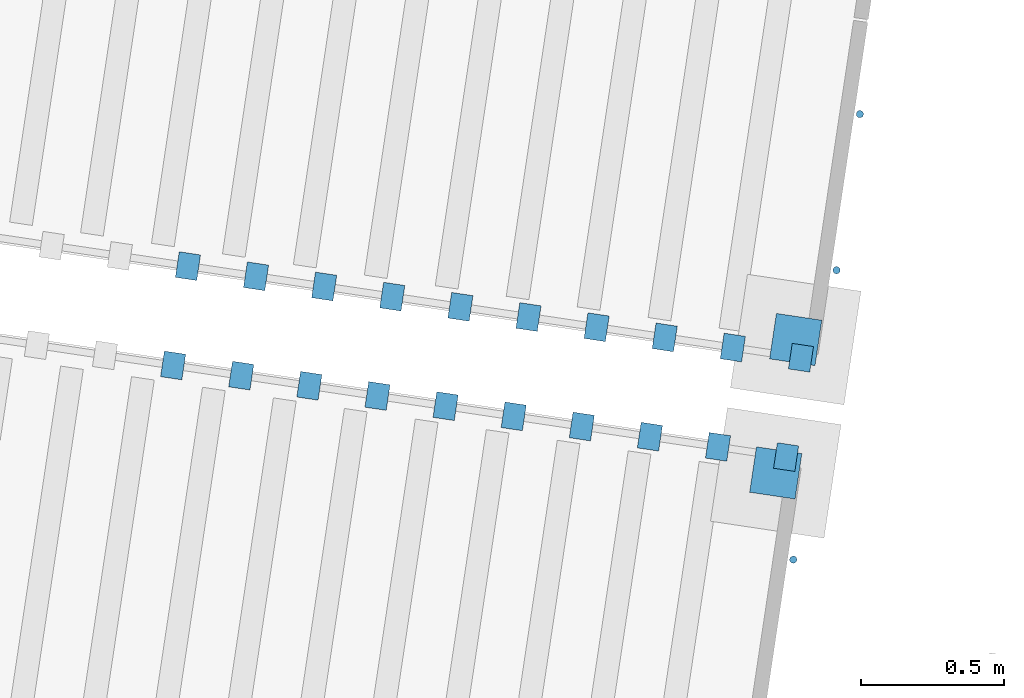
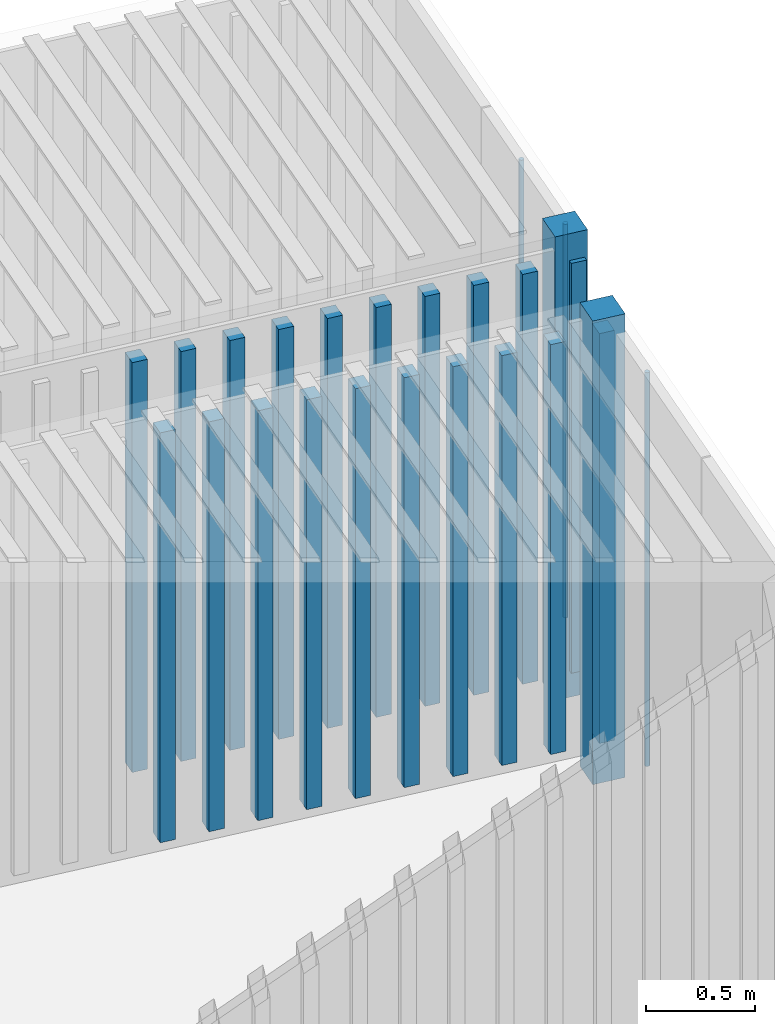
# One storey, part 30 of 142: 25 members, 2 elements without a shape of their own.
"""IFC4 building model written with IfcOpenShell, lengths in metres."""

from ifc_helpers import new_model, si_unit, direction, frame, origin_with_axes, place, context, subcontext, project, spatial, polyline, circle, outline, extrude, material, material_profile, profile_set, profile_usage, type_object, element, aggregate, save


model = new_model("IFC4")

# Units and contexts
model_context = context("Model", 3, precision=1e-05, world=origin_with_axes(), true_north=direction((0.0, 1.0)))
body_context = subcontext(model_context, "Body", "Model", "MODEL_VIEW")
ifc_project = project(units=[si_unit("VOLUMEUNIT", "CUBIC_METRE"), si_unit("LENGTHUNIT", "METRE"), si_unit("AREAUNIT", "SQUARE_METRE")], contexts=[model_context])

# Site, building, storey
site_placement = place(None, origin_with_axes())
site = spatial("IfcSite", under=ifc_project, at=site_placement, Name="Lares · Rua das Mercês · artigo 4771")
building_placement = place(site_placement, frame((12.0, 10.2, 13.9), z_axis=(0.0, 0.0, 1.0), x_axis=(0.989015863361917, -0.147809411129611, 0.0)))
building = spatial("IfcBuilding", under=site, at=building_placement, Name="Casa Sobreposta")
storey_placement = place(building_placement, origin_with_axes())
storey = spatial("IfcBuildingStorey", under=building, at=storey_placement, Name="00 · Habitação e estacionamento", Elevation=13.9)

# Assembly, member
assembly_1_placement = place(storey_placement, origin_with_axes())
assembly_1 = element("IfcElementAssembly", 1, at=assembly_1_placement, inside=storey, ObjectType="EXISTING_SHIPPING_CONTAINER", PredefinedType="USERDEFINED")
ifc_material_1 = material(Name="Aço galvanizado / Stahl verzinkt", Category="steel")
ifc_material_profile = material_profile(ifc_material_1, circle(Radius=0.0125))
ifc_profile_set = profile_set([ifc_material_profile], Name="D0.025")
ifc_profile_usage_1 = profile_usage(ifc_profile_set)
member_type = type_object("IfcMemberType", Name="D0.025 / galvanized", PredefinedType="NOTDEFINED", material=ifc_profile_set)
member_1_placement = place(assembly_1_placement, frame((-6.975, 7.07, -0.394226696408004), z_axis=(0.0, 0.0, 1.0), x_axis=(1.0, 0.0, 0.0)))
member_1 = element("IfcMember", 2, at=member_1_placement, type_object=member_type, material=ifc_profile_usage_1, Name="Contentor · varão de fecho", context=body_context, shape_type="SweptSolid", body=[
    extrude(circle(Radius=0.0125), origin_with_axes(), (0.0, 0.0, 1.0), 2.2),
])

# Assembly, members
assembly_2_placement = place(storey_placement, origin_with_axes())
assembly_2 = element("IfcElementAssembly", 3, at=assembly_2_placement, inside=storey, ObjectType="EXISTING_SHIPPING_CONTAINER", PredefinedType="USERDEFINED")
ifc_profile_usage_2 = profile_usage(ifc_profile_set)
member_2_placement = place(assembly_2_placement, frame((-6.975, 8.09, -0.229831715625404), z_axis=(0.0, 0.0, 1.0), x_axis=(1.0, 0.0, 0.0)))
member_2 = element("IfcMember", 4, at=member_2_placement, type_object=member_type, material=ifc_profile_usage_2, Name="Contentor · varão de fecho", context=body_context, shape_type="SweptSolid", body=[
    extrude(circle(Radius=0.0125), origin_with_axes(), (0.0, 0.0, 1.0), 2.2),
])
ifc_profile_usage_3 = profile_usage(ifc_profile_set)
member_3_placement = place(assembly_2_placement, frame((-6.975, 8.64, -0.229831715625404), z_axis=(0.0, 0.0, 1.0), x_axis=(1.0, 0.0, 0.0)))
member_3 = element("IfcMember", 5, at=member_3_placement, type_object=member_type, material=ifc_profile_usage_3, Name="Contentor · varão de fecho", context=body_context, shape_type="SweptSolid", body=[
    extrude(circle(Radius=0.0125), origin_with_axes(), (0.0, 0.0, 1.0), 2.2),
])

# Member
ifc_material_2 = material(Name="Contentor · pintura 1", Category="steel")
member_4_placement = place(assembly_1_placement, frame((0.0, 0.0, -0.594226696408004), z_axis=(0.0, 0.0, 1.0), x_axis=(1.0, 0.0, 0.0)))
member_4 = element("IfcMember", 6, at=member_4_placement, material=ifc_material_2, Name="Contentor · canto", context=body_context, shape_type="SweptSolid", body=[
    extrude(outline(polyline([(-7.0, 7.28), (-7.0, 7.44), (-7.16, 7.44), (-7.16, 7.28), (-7.0, 7.28)])), origin_with_axes(), (0.0, 0.0, 1.0), 2.59),
])

member_5_placement = place(assembly_1_placement, frame((0.0, 0.0, -0.444226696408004), z_axis=(0.0, 0.0, 1.0), x_axis=(1.0, 0.0, 0.0)))
member_5 = element("IfcMember", 7, at=member_5_placement, material=ifc_material_2, Name="Contentor · nervura lateral", context=body_context, shape_type="SweptSolid", body=[
    extrude(outline(polyline([(-9.175, 7.375), (-9.175, 7.465), (-9.25, 7.465), (-9.25, 7.375), (-9.175, 7.375)])), origin_with_axes(), (0.0, 0.0, 1.0), 2.29),
])

member_6_placement = place(assembly_1_placement, frame((0.0, 0.0, -0.444226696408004), z_axis=(0.0, 0.0, 1.0), x_axis=(1.0, 0.0, 0.0)))
member_6 = element("IfcMember", 8, at=member_6_placement, material=ifc_material_2, Name="Contentor · nervura lateral", context=body_context, shape_type="SweptSolid", body=[
    extrude(outline(polyline([(-8.935, 7.375), (-8.935, 7.465), (-9.01, 7.465), (-9.01, 7.375), (-8.935, 7.375)])), origin_with_axes(), (0.0, 0.0, 1.0), 2.29),
])

member_7_placement = place(assembly_1_placement, frame((0.0, 0.0, -0.444226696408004), z_axis=(0.0, 0.0, 1.0), x_axis=(1.0, 0.0, 0.0)))
member_7 = element("IfcMember", 9, at=member_7_placement, material=ifc_material_2, Name="Contentor · nervura lateral", context=body_context, shape_type="SweptSolid", body=[
    extrude(outline(polyline([(-8.695, 7.375), (-8.695, 7.465), (-8.77, 7.465), (-8.77, 7.375), (-8.695, 7.375)])), origin_with_axes(), (0.0, 0.0, 1.0), 2.29),
])

member_8_placement = place(assembly_1_placement, frame((0.0, 0.0, -0.444226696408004), z_axis=(0.0, 0.0, 1.0), x_axis=(1.0, 0.0, 0.0)))
member_8 = element("IfcMember", 10, at=member_8_placement, material=ifc_material_2, Name="Contentor · nervura lateral", context=body_context, shape_type="SweptSolid", body=[
    extrude(outline(polyline([(-8.455, 7.375), (-8.455, 7.465), (-8.53, 7.465), (-8.53, 7.375), (-8.455, 7.375)])), origin_with_axes(), (0.0, 0.0, 1.0), 2.29),
])

member_9_placement = place(assembly_1_placement, frame((0.0, 0.0, -0.444226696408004), z_axis=(0.0, 0.0, 1.0), x_axis=(1.0, 0.0, 0.0)))
member_9 = element("IfcMember", 11, at=member_9_placement, material=ifc_material_2, Name="Contentor · nervura lateral", context=body_context, shape_type="SweptSolid", body=[
    extrude(outline(polyline([(-8.215, 7.375), (-8.215, 7.465), (-8.29, 7.465), (-8.29, 7.375), (-8.215, 7.375)])), origin_with_axes(), (0.0, 0.0, 1.0), 2.29),
])

member_10_placement = place(assembly_1_placement, frame((0.0, 0.0, -0.444226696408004), z_axis=(0.0, 0.0, 1.0), x_axis=(1.0, 0.0, 0.0)))
member_10 = element("IfcMember", 12, at=member_10_placement, material=ifc_material_2, Name="Contentor · nervura lateral", context=body_context, shape_type="SweptSolid", body=[
    extrude(outline(polyline([(-7.975, 7.375), (-7.975, 7.465), (-8.05, 7.465), (-8.05, 7.375), (-7.975, 7.375)])), origin_with_axes(), (0.0, 0.0, 1.0), 2.29),
])

member_11_placement = place(assembly_1_placement, frame((0.0, 0.0, -0.444226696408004), z_axis=(0.0, 0.0, 1.0), x_axis=(1.0, 0.0, 0.0)))
member_11 = element("IfcMember", 13, at=member_11_placement, material=ifc_material_2, Name="Contentor · nervura lateral", context=body_context, shape_type="SweptSolid", body=[
    extrude(outline(polyline([(-7.73499999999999, 7.375), (-7.73499999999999, 7.465), (-7.81, 7.465), (-7.81, 7.375), (-7.73499999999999, 7.375)])), origin_with_axes(), (0.0, 0.0, 1.0), 2.29),
])

member_12_placement = place(assembly_1_placement, frame((0.0, 0.0, -0.444226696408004), z_axis=(0.0, 0.0, 1.0), x_axis=(1.0, 0.0, 0.0)))
member_12 = element("IfcMember", 14, at=member_12_placement, material=ifc_material_2, Name="Contentor · nervura lateral", context=body_context, shape_type="SweptSolid", body=[
    extrude(outline(polyline([(-7.49499999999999, 7.375), (-7.49499999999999, 7.465), (-7.56999999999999, 7.465), (-7.56999999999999, 7.375), (-7.49499999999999, 7.375)])), origin_with_axes(), (0.0, 0.0, 1.0), 2.29),
])

member_13_placement = place(assembly_1_placement, frame((0.0, 0.0, -0.444226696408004), z_axis=(0.0, 0.0, 1.0), x_axis=(1.0, 0.0, 0.0)))
member_13 = element("IfcMember", 15, at=member_13_placement, material=ifc_material_2, Name="Contentor · nervura lateral", context=body_context, shape_type="SweptSolid", body=[
    extrude(outline(polyline([(-7.25499999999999, 7.375), (-7.25499999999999, 7.465), (-7.32999999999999, 7.465), (-7.32999999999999, 7.375), (-7.25499999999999, 7.375)])), origin_with_axes(), (0.0, 0.0, 1.0), 2.29),
])

member_14_placement = place(assembly_1_placement, frame((0.0, 0.0, -0.444226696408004), z_axis=(0.0, 0.0, 1.0), x_axis=(1.0, 0.0, 0.0)))
member_14 = element("IfcMember", 16, at=member_14_placement, material=ifc_material_2, Name="Contentor · nervura lateral", context=body_context, shape_type="SweptSolid", body=[
    extrude(outline(polyline([(-7.01499999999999, 7.375), (-7.01499999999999, 7.465), (-7.08999999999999, 7.465), (-7.08999999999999, 7.375), (-7.01499999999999, 7.375)])), origin_with_axes(), (0.0, 0.0, 1.0), 2.29),
])

aggregate(assembly_1, [member_4, member_5, member_6, member_7, member_8, member_9, member_10, member_11, member_12, member_13, member_14, member_1])

ifc_material_3 = material(Name="Contentor · pintura 2", Category="steel")
member_15_placement = place(assembly_2_placement, frame((0.0, 0.0, -0.429831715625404), z_axis=(0.0, 0.0, 1.0), x_axis=(1.0, 0.0, 0.0)))
member_15 = element("IfcMember", 17, at=member_15_placement, material=ifc_material_3, Name="Contentor · canto", context=body_context, shape_type="SweptSolid", body=[
    extrude(outline(polyline([(-7.0, 7.75), (-7.0, 7.91), (-7.16, 7.91), (-7.16, 7.75), (-7.0, 7.75)])), origin_with_axes(), (0.0, 0.0, 1.0), 2.59),
])

member_16_placement = place(assembly_2_placement, frame((0.0, 0.0, -0.279831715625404), z_axis=(0.0, 0.0, 1.0), x_axis=(1.0, 0.0, 0.0)))
member_16 = element("IfcMember", 18, at=member_16_placement, material=ifc_material_3, Name="Contentor · nervura lateral", context=body_context, shape_type="SweptSolid", body=[
    extrude(outline(polyline([(-9.175, 7.725), (-9.175, 7.815), (-9.25, 7.815), (-9.25, 7.725), (-9.175, 7.725)])), origin_with_axes(), (0.0, 0.0, 1.0), 2.29),
])

member_17_placement = place(assembly_2_placement, frame((0.0, 0.0, -0.279831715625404), z_axis=(0.0, 0.0, 1.0), x_axis=(1.0, 0.0, 0.0)))
member_17 = element("IfcMember", 19, at=member_17_placement, material=ifc_material_3, Name="Contentor · nervura lateral", context=body_context, shape_type="SweptSolid", body=[
    extrude(outline(polyline([(-8.935, 7.725), (-8.935, 7.815), (-9.01, 7.815), (-9.01, 7.725), (-8.935, 7.725)])), origin_with_axes(), (0.0, 0.0, 1.0), 2.29),
])

member_18_placement = place(assembly_2_placement, frame((0.0, 0.0, -0.279831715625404), z_axis=(0.0, 0.0, 1.0), x_axis=(1.0, 0.0, 0.0)))
member_18 = element("IfcMember", 20, at=member_18_placement, material=ifc_material_3, Name="Contentor · nervura lateral", context=body_context, shape_type="SweptSolid", body=[
    extrude(outline(polyline([(-8.695, 7.725), (-8.695, 7.815), (-8.77, 7.815), (-8.77, 7.725), (-8.695, 7.725)])), origin_with_axes(), (0.0, 0.0, 1.0), 2.29),
])

member_19_placement = place(assembly_2_placement, frame((0.0, 0.0, -0.279831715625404), z_axis=(0.0, 0.0, 1.0), x_axis=(1.0, 0.0, 0.0)))
member_19 = element("IfcMember", 21, at=member_19_placement, material=ifc_material_3, Name="Contentor · nervura lateral", context=body_context, shape_type="SweptSolid", body=[
    extrude(outline(polyline([(-8.455, 7.725), (-8.455, 7.815), (-8.53, 7.815), (-8.53, 7.725), (-8.455, 7.725)])), origin_with_axes(), (0.0, 0.0, 1.0), 2.29),
])

member_20_placement = place(assembly_2_placement, frame((0.0, 0.0, -0.279831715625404), z_axis=(0.0, 0.0, 1.0), x_axis=(1.0, 0.0, 0.0)))
member_20 = element("IfcMember", 22, at=member_20_placement, material=ifc_material_3, Name="Contentor · nervura lateral", context=body_context, shape_type="SweptSolid", body=[
    extrude(outline(polyline([(-8.215, 7.725), (-8.215, 7.815), (-8.29, 7.815), (-8.29, 7.725), (-8.215, 7.725)])), origin_with_axes(), (0.0, 0.0, 1.0), 2.29),
])

member_21_placement = place(assembly_2_placement, frame((0.0, 0.0, -0.279831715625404), z_axis=(0.0, 0.0, 1.0), x_axis=(1.0, 0.0, 0.0)))
member_21 = element("IfcMember", 23, at=member_21_placement, material=ifc_material_3, Name="Contentor · nervura lateral", context=body_context, shape_type="SweptSolid", body=[
    extrude(outline(polyline([(-7.975, 7.725), (-7.975, 7.815), (-8.05, 7.815), (-8.05, 7.725), (-7.975, 7.725)])), origin_with_axes(), (0.0, 0.0, 1.0), 2.29),
])

member_22_placement = place(assembly_2_placement, frame((0.0, 0.0, -0.279831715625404), z_axis=(0.0, 0.0, 1.0), x_axis=(1.0, 0.0, 0.0)))
member_22 = element("IfcMember", 24, at=member_22_placement, material=ifc_material_3, Name="Contentor · nervura lateral", context=body_context, shape_type="SweptSolid", body=[
    extrude(outline(polyline([(-7.73499999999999, 7.725), (-7.73499999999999, 7.815), (-7.81, 7.815), (-7.81, 7.725), (-7.73499999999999, 7.725)])), origin_with_axes(), (0.0, 0.0, 1.0), 2.29),
])

member_23_placement = place(assembly_2_placement, frame((0.0, 0.0, -0.279831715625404), z_axis=(0.0, 0.0, 1.0), x_axis=(1.0, 0.0, 0.0)))
member_23 = element("IfcMember", 25, at=member_23_placement, material=ifc_material_3, Name="Contentor · nervura lateral", context=body_context, shape_type="SweptSolid", body=[
    extrude(outline(polyline([(-7.49499999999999, 7.725), (-7.49499999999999, 7.815), (-7.56999999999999, 7.815), (-7.56999999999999, 7.725), (-7.49499999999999, 7.725)])), origin_with_axes(), (0.0, 0.0, 1.0), 2.29),
])

member_24_placement = place(assembly_2_placement, frame((0.0, 0.0, -0.279831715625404), z_axis=(0.0, 0.0, 1.0), x_axis=(1.0, 0.0, 0.0)))
member_24 = element("IfcMember", 26, at=member_24_placement, material=ifc_material_3, Name="Contentor · nervura lateral", context=body_context, shape_type="SweptSolid", body=[
    extrude(outline(polyline([(-7.25499999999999, 7.725), (-7.25499999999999, 7.815), (-7.32999999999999, 7.815), (-7.32999999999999, 7.725), (-7.25499999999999, 7.725)])), origin_with_axes(), (0.0, 0.0, 1.0), 2.29),
])

member_25_placement = place(assembly_2_placement, frame((0.0, 0.0, -0.279831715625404), z_axis=(0.0, 0.0, 1.0), x_axis=(1.0, 0.0, 0.0)))
member_25 = element("IfcMember", 27, at=member_25_placement, material=ifc_material_3, Name="Contentor · nervura lateral", context=body_context, shape_type="SweptSolid", body=[
    extrude(outline(polyline([(-7.01499999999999, 7.725), (-7.01499999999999, 7.815), (-7.08999999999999, 7.815), (-7.08999999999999, 7.725), (-7.01499999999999, 7.725)])), origin_with_axes(), (0.0, 0.0, 1.0), 2.29),
])

aggregate(assembly_2, [member_15, member_16, member_17, member_18, member_19, member_20, member_21, member_22, member_23, member_24, member_25, member_2, member_3])

save(model, "model.ifc")
